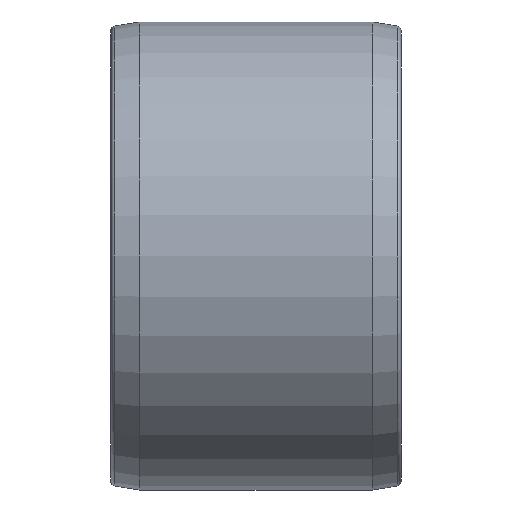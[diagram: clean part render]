
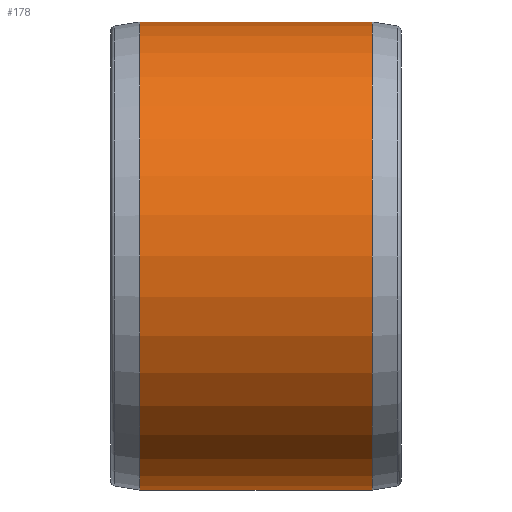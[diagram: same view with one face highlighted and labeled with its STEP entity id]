
A CAD part, front view. The second image highlights one B-rep face of the part: STEP entity #178.
In plain terms, the highlighted cylindrical face has radius 25 mm (diameter 50 mm), a full revolution.
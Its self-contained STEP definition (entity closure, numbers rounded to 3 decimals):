
#20=CYLINDRICAL_SURFACE('',#210,25.);
#38=FACE_BOUND('',#82,.T.);
#53=FACE_OUTER_BOUND('',#81,.T.);
#81=EDGE_LOOP('',(#156));
#82=EDGE_LOOP('',(#157));
#92=CIRCLE('',#196,25.);
#98=CIRCLE('',#207,25.);
#107=VERTEX_POINT('',#296);
#113=VERTEX_POINT('',#313);
#122=EDGE_CURVE('',#107,#107,#92,.T.);
#128=EDGE_CURVE('',#113,#113,#98,.T.);
#156=ORIENTED_EDGE('',*,*,#122,.F.);
#157=ORIENTED_EDGE('',*,*,#128,.F.);
#178=ADVANCED_FACE('',(#53,#38),#20,.T.);
#196=AXIS2_PLACEMENT_3D('',#297,#242,#243);
#207=AXIS2_PLACEMENT_3D('',#314,#264,#265);
#210=AXIS2_PLACEMENT_3D('',#318,#270,#271);
#242=DIRECTION('center_axis',(1.,0.,0.));
#243=DIRECTION('ref_axis',(0.,0.,-1.));
#264=DIRECTION('center_axis',(-1.,0.,0.));
#265=DIRECTION('ref_axis',(0.,-1.,0.));
#270=DIRECTION('center_axis',(1.,0.,0.));
#271=DIRECTION('ref_axis',(0.,1.,0.));
#296=CARTESIAN_POINT('',(-3.1,25.,0.));
#297=CARTESIAN_POINT('Origin',(-3.1,0.,0.));
#313=CARTESIAN_POINT('',(-27.9,25.,0.));
#314=CARTESIAN_POINT('Origin',(-27.9,0.,0.));
#318=CARTESIAN_POINT('Origin',(-17.05,0.,0.));
